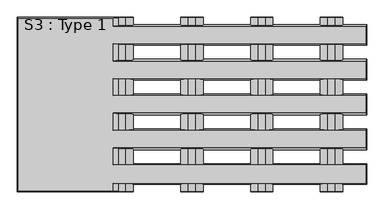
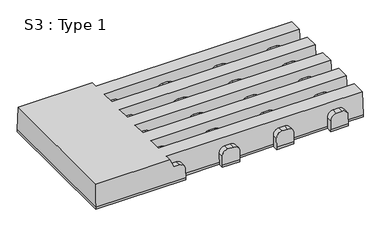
"""IFC4 building model written with IfcOpenShell, lengths in millimetres: proxy geometry, S3 : Type 1."""

from ifc_helpers import new_model, si_unit, frame, origin, place, context, project, spatial, ellipse_curve, source, transform, mapped, element, save
from ifc_brep_helpers import plane_surface, cylinder_surface, advanced_brep


def s3_type_1_7c8f1051(model_context):
    return source(origin(), model_context, "Body", "AdvancedBrep", [
        advanced_brep(
        [(0.0, 0.0, 0.0), (415.0, 0.0, 0.0), (415.0, 0.0, 10.0), (0.0, 0.0, 10.0), (415.0, 625.0, 0.0), (0.0, 625.0, 0.0), (0.0, 625.0, 10.0), (415.0, 625.0, 10.0), (415.0, 599.75, 0.0), (585.0, 599.75, 0.0), (585.0, 625.0, 0.0), (665.0, 625.0, 0.0), (665.0, 599.75, 0.0), (835.0, 599.75, 0.0), (835.0, 625.0, 0.0), (915.0, 625.0, 0.0), (915.0, 599.75, 0.0), (1085.0, 599.75, 0.0), (1085.0, 625.0, 0.0), (1165.0, 625.0, 0.0), (1165.0, 599.75, 0.0), (1250.0, 599.75, 0.0), (1250.0, 525.25, 0.0), (1165.0, 525.25, 0.0), (1165.0, 474.75, 0.0), (1250.0, 474.75, 0.0), (1250.0, 400.25, 0.0), (1165.0, 400.25, 0.0), (1165.0, 349.75, 0.0), (1250.0, 349.75, 0.0), (1250.0, 275.25, 0.0), (1165.0, 275.25, 0.0), (1165.0, 224.75, 0.0), (1250.0, 224.75, 0.0), (1250.0, 150.25, 0.0), (1165.0, 150.25, 0.0), (1165.0, 99.75, 0.0), (1250.0, 99.75, 0.0), (1250.0, 25.25, 0.0), (1165.0, 25.25, 0.0), (1165.0, 0.0, 0.0), (1085.0, 0.0, 0.0), (1085.0, 25.25, 0.0), (915.0, 25.25, 0.0), (915.0, 0.0, 0.0), (835.0, 0.0, 0.0), (835.0, 25.25, 0.0), (665.0, 25.25, 0.0), (665.0, 0.0, 0.0), (585.0, 0.0, 0.0), (585.0, 25.25, 0.0), (415.0, 25.25, 0.0), (665.0, 150.25, 0.0), (665.0, 99.75, 0.0), (835.0, 99.75, 0.0), (835.0, 150.25, 0.0), (665.0, 275.25, 0.0), (665.0, 224.75, 0.0), (835.0, 224.75, 0.0), (835.0, 275.25, 0.0), (665.0, 400.25, 0.0), (665.0, 349.75, 0.0), (835.0, 349.75, 0.0), (835.0, 400.25, 0.0), (665.0, 525.25, 0.0), (665.0, 474.75, 0.0), (835.0, 474.75, 0.0), (835.0, 525.25, 0.0), (915.0, 150.25, 0.0), (915.0, 99.75, 0.0), (1085.0, 99.75, 0.0), (1085.0, 150.25, 0.0), (915.0, 275.25, 0.0), (915.0, 224.75, 0.0), (1085.0, 224.75, 0.0), (1085.0, 275.25, 0.0), (915.0, 400.25, 0.0), (915.0, 349.75, 0.0), (1085.0, 349.75, 0.0), (1085.0, 400.25, 0.0), (915.0, 525.25, 0.0), (915.0, 474.75, 0.0), (1085.0, 474.75, 0.0), (1085.0, 525.25, 0.0), (415.0, 150.25, 0.0), (415.0, 99.75, 0.0), (585.0, 99.75, 0.0), (585.0, 150.25, 0.0), (415.0, 275.25, 0.0), (415.0, 224.75, 0.0), (585.0, 224.75, 0.0), (585.0, 275.25, 0.0), (415.0, 400.25, 0.0), (415.0, 349.75, 0.0), (585.0, 349.75, 0.0), (585.0, 400.25, 0.0), (415.0, 525.25, 0.0), (415.0, 474.75, 0.0), (585.0, 474.75, 0.0), (585.0, 525.25, 0.0), (1250.0, 99.75, 10.0), (1250.0, 25.25, 10.0), (1165.0, 99.75, 10.0), (665.0, 99.75, 10.0), (835.0, 99.75, 10.0), (915.0, 99.75, 10.0), (1085.0, 99.75, 10.0), (415.0, 99.75, 10.0), (585.0, 99.75, 10.0), (415.0, 97.8943952, 53.33), (388.33, 96.7522539, 80.0), (361.67, 96.7522539, 80.0), (343.8, 95.0392562, 120.0), (1247.0, 95.0392562, 120.0), (1165.0, 97.8943952, 53.33), (1138.33, 96.7522539, 80.0), (1111.67, 96.7522539, 80.0), (1085.0, 97.8943952, 53.33), (915.0, 97.8943952, 53.33), (888.33, 96.7522539, 80.0), (861.67, 96.7522539, 80.0), (835.0, 97.8943952, 53.33), (665.0, 97.8943952, 53.33), (638.33, 96.7522539, 80.0), (611.67, 96.7522539, 80.0), (585.0, 97.8943952, 53.33), (415.0, 27.1056048, 53.33), (415.0, 25.25, 10.0), (585.0, 25.25, 10.0), (585.0, 27.1056048, 53.33), (611.67, 28.2477461, 80.0), (638.33, 28.2477461, 80.0), (665.0, 27.1056048, 53.33), (665.0, 25.25, 10.0), (835.0, 25.25, 10.0), (835.0, 27.1056048, 53.33), (861.67, 28.2477461, 80.0), (888.33, 28.2477461, 80.0), (915.0, 27.1056048, 53.33), (915.0, 25.25, 10.0), (1085.0, 25.25, 10.0), (1085.0, 27.1056048, 53.33), (1111.67, 28.2477461, 80.0), (1138.33, 28.2477461, 80.0), (1165.0, 27.1056048, 53.33), (1165.0, 25.25, 10.0), (1247.0, 29.9607438, 120.0), (343.8, 29.9607438, 120.0), (361.67, 28.2477461, 80.0), (388.33, 28.2477461, 80.0), (1250.0, 224.75, 10.0), (1250.0, 150.25, 10.0), (1165.0, 224.75, 10.0), (665.0, 224.75, 10.0), (835.0, 224.75, 10.0), (915.0, 224.75, 10.0), (1085.0, 224.75, 10.0), (415.0, 224.75, 10.0), (585.0, 224.75, 10.0), (415.0, 222.3865455, 53.33), (388.33, 220.9318182, 80.0), (361.67, 220.9318182, 80.0), (343.8, 218.75, 120.0), (1247.0, 218.75, 120.0), (1165.0, 222.3865455, 53.33), (1138.33, 220.9318182, 80.0), (1111.67, 220.9318182, 80.0), (1085.0, 222.3865455, 53.33), (915.0, 222.3865455, 53.33), (888.33, 220.9318182, 80.0), (861.67, 220.9318182, 80.0), (835.0, 222.3865455, 53.33), (665.0, 222.3865455, 53.33), (638.33, 220.9318182, 80.0), (611.67, 220.9318182, 80.0), (585.0, 222.3865455, 53.33), (415.0, 152.6134545, 53.33), (415.0, 150.25, 10.0), (585.0, 150.25, 10.0), (585.0, 152.6134545, 53.33), (611.67, 154.0681818, 80.0), (638.33, 154.0681818, 80.0), (665.0, 152.6134545, 53.33), (665.0, 150.25, 10.0), (835.0, 150.25, 10.0), (835.0, 152.6134545, 53.33), (861.67, 154.0681818, 80.0), (888.33, 154.0681818, 80.0), (915.0, 152.6134545, 53.33), (915.0, 150.25, 10.0), (1085.0, 150.25, 10.0), (1085.0, 152.6134545, 53.33), (1111.67, 154.0681818, 80.0), (1138.33, 154.0681818, 80.0), (1165.0, 152.6134545, 53.33), (1165.0, 150.25, 10.0), (1247.0, 156.25, 120.0), (343.8, 156.25, 120.0), (361.67, 154.0681818, 80.0), (388.33, 154.0681818, 80.0), (1250.0, 349.75, 10.0), (1250.0, 275.25, 10.0), (1165.0, 349.75, 10.0), (665.0, 349.75, 10.0), (835.0, 349.75, 10.0), (915.0, 349.75, 10.0), (1085.0, 349.75, 10.0), (415.0, 349.75, 10.0), (585.0, 349.75, 10.0), (415.0, 347.3865455, 53.33), (388.33, 345.9318182, 80.0), (361.67, 345.9318182, 80.0), (343.8, 343.75, 120.0), (1247.0, 343.75, 120.0), (1165.0, 347.3865455, 53.33), (1138.33, 345.9318182, 80.0), (1111.67, 345.9318182, 80.0), (1085.0, 347.3865455, 53.33), (915.0, 347.3865455, 53.33), (888.33, 345.9318182, 80.0), (861.67, 345.9318182, 80.0), (835.0, 347.3865455, 53.33), (665.0, 347.3865455, 53.33), (638.33, 345.9318182, 80.0), (611.67, 345.9318182, 80.0), (585.0, 347.3865455, 53.33), (415.0, 277.6134545, 53.33), (415.0, 275.25, 10.0), (585.0, 275.25, 10.0), (585.0, 277.6134545, 53.33), (611.67, 279.0681818, 80.0), (638.33, 279.0681818, 80.0), (665.0, 277.6134545, 53.33), (665.0, 275.25, 10.0), (835.0, 275.25, 10.0), (835.0, 277.6134545, 53.33), (861.67, 279.0681818, 80.0), (888.33, 279.0681818, 80.0), (915.0, 277.6134545, 53.33), (915.0, 275.25, 10.0), (1085.0, 275.25, 10.0), (1085.0, 277.6134545, 53.33), (1111.67, 279.0681818, 80.0), (1138.33, 279.0681818, 80.0), (1165.0, 277.6134545, 53.33), (1165.0, 275.25, 10.0), (1247.0, 281.25, 120.0), (343.8, 281.25, 120.0), (361.67, 279.0681818, 80.0), (388.33, 279.0681818, 80.0), (1250.0, 474.75, 10.0), (1250.0, 400.25, 10.0), (1165.0, 474.75, 10.0), (665.0, 474.75, 10.0), (835.0, 474.75, 10.0), (915.0, 474.75, 10.0), (1085.0, 474.75, 10.0), (415.0, 474.75, 10.0), (585.0, 474.75, 10.0), (415.0, 472.3865455, 53.33), (388.33, 470.9318182, 80.0), (361.67, 470.9318182, 80.0), (343.8, 468.75, 120.0), (1247.0, 468.75, 120.0), (1165.0, 472.3865455, 53.33), (1138.33, 470.9318182, 80.0), (1111.67, 470.9318182, 80.0), (1085.0, 472.3865455, 53.33), (915.0, 472.3865455, 53.33), (888.33, 470.9318182, 80.0), (861.67, 470.9318182, 80.0), (835.0, 472.3865455, 53.33), (665.0, 472.3865455, 53.33), (638.33, 470.9318182, 80.0), (611.67, 470.9318182, 80.0), (585.0, 472.3865455, 53.33), (415.0, 402.6134545, 53.33), (415.0, 400.25, 10.0), (585.0, 400.25, 10.0), (585.0, 402.6134545, 53.33), (611.67, 404.0681818, 80.0), (638.33, 404.0681818, 80.0), (665.0, 402.6134545, 53.33), (665.0, 400.25, 10.0), (835.0, 400.25, 10.0), (835.0, 402.6134545, 53.33), (861.67, 404.0681818, 80.0), (888.33, 404.0681818, 80.0), (915.0, 402.6134545, 53.33), (915.0, 400.25, 10.0), (1085.0, 400.25, 10.0), (1085.0, 402.6134545, 53.33), (1111.67, 404.0681818, 80.0), (1138.33, 404.0681818, 80.0), (1165.0, 402.6134545, 53.33), (1165.0, 400.25, 10.0), (1247.0, 406.25, 120.0), (343.8, 406.25, 120.0), (361.67, 404.0681818, 80.0), (388.33, 404.0681818, 80.0), (1250.0, 599.75, 10.0), (1250.0, 525.25, 10.0), (1165.0, 599.75, 10.0), (665.0, 599.75, 10.0), (835.0, 599.75, 10.0), (915.0, 599.75, 10.0), (1085.0, 599.75, 10.0), (415.0, 599.75, 10.0), (585.0, 599.75, 10.0), (415.0, 597.4939752, 53.33), (388.33, 596.1053719, 80.0), (361.67, 596.1053719, 80.0), (343.8, 594.0227273, 120.0), (1247.0, 594.0227273, 120.0), (1165.0, 597.4939752, 53.33), (1138.33, 596.1053719, 80.0), (1111.67, 596.1053719, 80.0), (1085.0, 597.4939752, 53.33), (915.0, 597.4939752, 53.33), (888.33, 596.1053719, 80.0), (861.67, 596.1053719, 80.0), (835.0, 597.4939752, 53.33), (665.0, 597.4939752, 53.33), (638.33, 596.1053719, 80.0), (611.67, 596.1053719, 80.0), (585.0, 597.4939752, 53.33), (415.0, 527.5060248, 53.33), (415.0, 525.25, 10.0), (585.0, 525.25, 10.0), (585.0, 527.5060248, 53.33), (611.67, 528.8946281, 80.0), (638.33, 528.8946281, 80.0), (665.0, 527.5060248, 53.33), (665.0, 525.25, 10.0), (835.0, 525.25, 10.0), (835.0, 527.5060248, 53.33), (861.67, 528.8946281, 80.0), (888.33, 528.8946281, 80.0), (915.0, 527.5060248, 53.33), (915.0, 525.25, 10.0), (1085.0, 525.25, 10.0), (1085.0, 527.5060248, 53.33), (1111.67, 528.8946281, 80.0), (1138.33, 528.8946281, 80.0), (1165.0, 527.5060248, 53.33), (1165.0, 525.25, 10.0), (1247.0, 530.9772727, 120.0), (343.8, 530.9772727, 120.0), (361.67, 528.8946281, 80.0), (388.33, 528.8946281, 80.0), (665.0, 0.0, 10.0), (585.0, 0.0, 10.0), (585.0, 625.0, 10.0), (665.0, 625.0, 10.0), (915.0, 0.0, 10.0), (835.0, 0.0, 10.0), (835.0, 625.0, 10.0), (915.0, 625.0, 10.0), (1165.0, 0.0, 10.0), (1085.0, 0.0, 10.0), (1085.0, 625.0, 10.0), (1165.0, 625.0, 10.0), (665.0, 623.91675, 53.33), (665.0, 1.0811971, 53.33), (638.33, 1.7466836, 80.0), (638.33, 623.25, 80.0), (611.67, 1.7466836, 80.0), (611.67, 623.25, 80.0), (585.0, 1.0811971, 53.33), (585.0, 623.91675, 53.33), (915.0, 623.91675, 53.33), (915.0, 1.0811971, 53.33), (888.33, 1.7466836, 80.0), (888.33, 623.25, 80.0), (861.67, 1.7466836, 80.0), (861.67, 623.25, 80.0), (835.0, 1.0811971, 53.33), (835.0, 623.91675, 53.33), (1165.0, 623.91675, 53.33), (1165.0, 1.0811971, 53.33), (1138.33, 1.7466836, 80.0), (1138.33, 623.25, 80.0), (1111.67, 1.7466836, 80.0), (1111.67, 623.25, 80.0), (1085.0, 1.0811971, 53.33), (1085.0, 623.91675, 53.33), (415.0, 623.91675, 53.33), (415.0, 1.0811971, 53.33), (388.33, 1.7466836, 80.0), (388.33, 623.25, 80.0), (361.67, 1.7466836, 80.0), (361.67, 623.25, 80.0), (343.8, 2.7447885, 120.0), (343.8, 622.25, 120.0), (3.0, 622.25, 120.0), (3.0, 2.7447885, 120.0)],
        [
            (0, 1),
            (1, 2),
            (2, 3),
            (3, 0),
            (4, 5),
            (5, 6),
            (6, 7),
            (7, 4),
            (5, 0),
            (3, 6),
            (4, 8),
            (8, 9),
            (9, 10),
            (10, 11),
            (11, 12),
            (12, 13),
            (13, 14),
            (14, 15),
            (15, 16),
            (16, 17),
            (17, 18),
            (18, 19),
            (19, 20),
            (20, 21),
            (21, 22),
            (22, 23),
            (23, 24),
            (24, 25),
            (25, 26),
            (26, 27),
            (27, 28),
            (28, 29),
            (29, 30),
            (30, 31),
            (31, 32),
            (32, 33),
            (33, 34),
            (34, 35),
            (35, 36),
            (36, 37),
            (37, 38),
            (38, 39),
            (39, 40),
            (40, 41),
            (41, 42),
            (42, 43),
            (43, 44),
            (44, 45),
            (45, 46),
            (46, 47),
            (47, 48),
            (48, 49),
            (49, 50),
            (50, 51),
            (51, 1),
            (52, 53),
            (53, 54),
            (54, 55),
            (55, 52),
            (56, 57),
            (57, 58),
            (58, 59),
            (59, 56),
            (60, 61),
            (61, 62),
            (62, 63),
            (63, 60),
            (64, 65),
            (65, 66),
            (66, 67),
            (67, 64),
            (68, 69),
            (69, 70),
            (70, 71),
            (71, 68),
            (72, 73),
            (73, 74),
            (74, 75),
            (75, 72),
            (76, 77),
            (77, 78),
            (78, 79),
            (79, 76),
            (80, 81),
            (81, 82),
            (82, 83),
            (83, 80),
            (84, 85),
            (85, 86),
            (86, 87),
            (87, 84),
            (88, 89),
            (89, 90),
            (90, 91),
            (91, 88),
            (92, 93),
            (93, 94),
            (94, 95),
            (95, 92),
            (96, 97),
            (97, 98),
            (98, 99),
            (99, 96),
            (37, 100),
            (100, 101),
            (101, 38),
            (36, 102),
            (102, 100),
            (53, 103),
            (103, 104),
            (104, 54),
            (69, 105),
            (105, 106),
            (106, 70),
            (85, 107),
            (107, 108),
            (108, 86),
            (107, 109),
            (109, 110, ellipse_curve(frame((388.33, 97.8943952, 53.33), z_axis=(0.0, -0.9990842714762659, -0.042785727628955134), x_axis=(0.0, -0.04278572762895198, 0.999084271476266)), 26.6944449, 26.67)),
            (110, 111),
            (111, 112),
            (112, 113),
            (113, 100),
            (102, 114),
            (114, 115, ellipse_curve(frame((1138.33, 97.8943952, 53.33), z_axis=(0.0, -0.9990842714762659, -0.042785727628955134), x_axis=(0.0, -0.04278572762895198, 0.999084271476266)), 26.6944449, 26.67)),
            (115, 116),
            (116, 117, ellipse_curve(frame((1111.67, 97.8943952, 53.33), z_axis=(0.0, -0.9990842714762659, -0.042785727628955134), x_axis=(0.0, -0.04278572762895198, 0.999084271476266)), 26.6944449, 26.67)),
            (117, 106),
            (105, 118),
            (118, 119, ellipse_curve(frame((888.33, 97.8943952, 53.33), z_axis=(0.0, -0.9990842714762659, -0.042785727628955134), x_axis=(0.0, -0.04278572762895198, 0.999084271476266)), 26.6944449, 26.67)),
            (119, 120),
            (120, 121, ellipse_curve(frame((861.67, 97.8943952, 53.33), z_axis=(0.0, -0.9990842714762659, -0.042785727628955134), x_axis=(0.0, -0.04278572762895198, 0.999084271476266)), 26.6944449, 26.67)),
            (121, 104),
            (103, 122),
            (122, 123, ellipse_curve(frame((638.33, 97.8943952, 53.33), z_axis=(0.0, -0.9990842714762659, -0.042785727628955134), x_axis=(0.0, -0.04278572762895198, 0.999084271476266)), 26.6944449, 26.67)),
            (123, 124),
            (124, 125, ellipse_curve(frame((611.67, 97.8943952, 53.33), z_axis=(0.0, -0.9990842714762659, -0.042785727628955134), x_axis=(0.0, -0.04278572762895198, 0.999084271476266)), 26.6944449, 26.67)),
            (125, 108),
            (126, 127),
            (127, 128),
            (128, 129),
            (129, 130, ellipse_curve(frame((611.67, 27.1056048, 53.33), z_axis=(0.0, 0.9990842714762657, -0.042785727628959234), x_axis=(0.0, -0.042785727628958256, -0.9990842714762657)), 26.6944449, 26.67)),
            (130, 131),
            (131, 132, ellipse_curve(frame((638.33, 27.1056048, 53.33), z_axis=(0.0, 0.9990842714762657, -0.042785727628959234), x_axis=(0.0, -0.042785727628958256, -0.9990842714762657)), 26.6944449, 26.67)),
            (132, 133),
            (133, 134),
            (134, 135),
            (135, 136, ellipse_curve(frame((861.67, 27.1056048, 53.33), z_axis=(0.0, 0.9990842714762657, -0.042785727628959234), x_axis=(0.0, -0.042785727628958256, -0.9990842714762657)), 26.6944449, 26.67)),
            (136, 137),
            (137, 138, ellipse_curve(frame((888.33, 27.1056048, 53.33), z_axis=(0.0, 0.9990842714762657, -0.042785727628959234), x_axis=(0.0, -0.042785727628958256, -0.9990842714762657)), 26.6944449, 26.67)),
            (138, 139),
            (139, 140),
            (140, 141),
            (141, 142, ellipse_curve(frame((1111.67, 27.1056048, 53.33), z_axis=(0.0, 0.9990842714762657, -0.042785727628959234), x_axis=(0.0, -0.042785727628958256, -0.9990842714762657)), 26.6944449, 26.67)),
            (142, 143),
            (143, 144, ellipse_curve(frame((1138.33, 27.1056048, 53.33), z_axis=(0.0, 0.9990842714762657, -0.042785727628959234), x_axis=(0.0, -0.042785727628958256, -0.9990842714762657)), 26.6944449, 26.67)),
            (144, 145),
            (145, 101),
            (101, 146),
            (146, 147),
            (147, 148),
            (148, 149),
            (149, 126, ellipse_curve(frame((388.33, 27.1056048, 53.33), z_axis=(0.0, 0.9990842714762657, -0.042785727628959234), x_axis=(0.0, -0.042785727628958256, -0.9990842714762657)), 26.6944449, 26.67)),
            (145, 39),
            (133, 47),
            (46, 134),
            (139, 43),
            (42, 140),
            (127, 51),
            (50, 128),
            (33, 150),
            (150, 151),
            (151, 34),
            (32, 152),
            (152, 150),
            (57, 153),
            (153, 154),
            (154, 58),
            (73, 155),
            (155, 156),
            (156, 74),
            (89, 157),
            (157, 158),
            (158, 90),
            (157, 159),
            (159, 160, ellipse_curve(frame((388.33, 222.3865455, 53.33), z_axis=(0.0, -0.9985157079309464, -0.05446449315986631), x_axis=(0.0, -0.05446449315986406, 0.9985157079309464)), 26.7096449, 26.67)),
            (160, 161),
            (161, 162),
            (162, 163),
            (163, 150),
            (152, 164),
            (164, 165, ellipse_curve(frame((1138.33, 222.3865455, 53.33), z_axis=(0.0, -0.9985157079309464, -0.05446449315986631), x_axis=(0.0, -0.05446449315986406, 0.9985157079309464)), 26.7096449, 26.67)),
            (165, 166),
            (166, 167, ellipse_curve(frame((1111.67, 222.3865455, 53.33), z_axis=(0.0, -0.9985157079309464, -0.05446449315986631), x_axis=(0.0, -0.05446449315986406, 0.9985157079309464)), 26.7096449, 26.67)),
            (167, 156),
            (155, 168),
            (168, 169, ellipse_curve(frame((888.33, 222.3865455, 53.33), z_axis=(0.0, -0.9985157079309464, -0.05446449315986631), x_axis=(0.0, -0.05446449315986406, 0.9985157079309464)), 26.7096449, 26.67)),
            (169, 170),
            (170, 171, ellipse_curve(frame((861.67, 222.3865455, 53.33), z_axis=(0.0, -0.9985157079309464, -0.05446449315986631), x_axis=(0.0, -0.05446449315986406, 0.9985157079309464)), 26.7096449, 26.67)),
            (171, 154),
            (153, 172),
            (172, 173, ellipse_curve(frame((638.33, 222.3865455, 53.33), z_axis=(0.0, -0.9985157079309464, -0.05446449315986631), x_axis=(0.0, -0.05446449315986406, 0.9985157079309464)), 26.7096449, 26.67)),
            (173, 174),
            (174, 175, ellipse_curve(frame((611.67, 222.3865455, 53.33), z_axis=(0.0, -0.9985157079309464, -0.05446449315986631), x_axis=(0.0, -0.05446449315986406, 0.9985157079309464)), 26.7096449, 26.67)),
            (175, 158),
            (176, 177),
            (177, 178),
            (178, 179),
            (179, 180, ellipse_curve(frame((611.67, 152.6134545, 53.33), z_axis=(0.0, 0.998515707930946, -0.05446449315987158), x_axis=(0.0, -0.05446449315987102, -0.9985157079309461)), 26.7096449, 26.67)),
            (180, 181),
            (181, 182, ellipse_curve(frame((638.33, 152.6134545, 53.33), z_axis=(0.0, 0.998515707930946, -0.05446449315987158), x_axis=(0.0, -0.05446449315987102, -0.9985157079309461)), 26.7096449, 26.67)),
            (182, 183),
            (183, 184),
            (184, 185),
            (185, 186, ellipse_curve(frame((861.67, 152.6134545, 53.33), z_axis=(0.0, 0.998515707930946, -0.05446449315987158), x_axis=(0.0, -0.05446449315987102, -0.9985157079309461)), 26.7096449, 26.67)),
            (186, 187),
            (187, 188, ellipse_curve(frame((888.33, 152.6134545, 53.33), z_axis=(0.0, 0.998515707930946, -0.05446449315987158), x_axis=(0.0, -0.05446449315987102, -0.9985157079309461)), 26.7096449, 26.67)),
            (188, 189),
            (189, 190),
            (190, 191),
            (191, 192, ellipse_curve(frame((1111.67, 152.6134545, 53.33), z_axis=(0.0, 0.998515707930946, -0.05446449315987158), x_axis=(0.0, -0.05446449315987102, -0.9985157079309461)), 26.7096449, 26.67)),
            (192, 193),
            (193, 194, ellipse_curve(frame((1138.33, 152.6134545, 53.33), z_axis=(0.0, 0.998515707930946, -0.05446449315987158), x_axis=(0.0, -0.05446449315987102, -0.9985157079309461)), 26.7096449, 26.67)),
            (194, 195),
            (195, 151),
            (151, 196),
            (196, 197),
            (197, 198),
            (198, 199),
            (199, 176, ellipse_curve(frame((388.33, 152.6134545, 53.33), z_axis=(0.0, 0.998515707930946, -0.05446449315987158), x_axis=(0.0, -0.05446449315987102, -0.9985157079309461)), 26.7096449, 26.67)),
            (195, 35),
            (183, 52),
            (55, 184),
            (189, 68),
            (71, 190),
            (177, 84),
            (87, 178),
            (29, 200),
            (200, 201),
            (201, 30),
            (28, 202),
            (202, 200),
            (61, 203),
            (203, 204),
            (204, 62),
            (77, 205),
            (205, 206),
            (206, 78),
            (93, 207),
            (207, 208),
            (208, 94),
            (207, 209),
            (209, 210, ellipse_curve(frame((388.33, 347.3865455, 53.33), z_axis=(0.0, -0.9985157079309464, -0.05446449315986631), x_axis=(0.0, -0.05446449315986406, 0.9985157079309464)), 26.7096449, 26.67)),
            (210, 211),
            (211, 212),
            (212, 213),
            (213, 200),
            (202, 214),
            (214, 215, ellipse_curve(frame((1138.33, 347.3865455, 53.33), z_axis=(0.0, -0.9985157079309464, -0.05446449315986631), x_axis=(0.0, -0.05446449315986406, 0.9985157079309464)), 26.7096449, 26.67)),
            (215, 216),
            (216, 217, ellipse_curve(frame((1111.67, 347.3865455, 53.33), z_axis=(0.0, -0.9985157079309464, -0.05446449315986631), x_axis=(0.0, -0.05446449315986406, 0.9985157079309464)), 26.7096449, 26.67)),
            (217, 206),
            (205, 218),
            (218, 219, ellipse_curve(frame((888.33, 347.3865455, 53.33), z_axis=(0.0, -0.9985157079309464, -0.05446449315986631), x_axis=(0.0, -0.05446449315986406, 0.9985157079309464)), 26.7096449, 26.67)),
            (219, 220),
            (220, 221, ellipse_curve(frame((861.67, 347.3865455, 53.33), z_axis=(0.0, -0.9985157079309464, -0.05446449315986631), x_axis=(0.0, -0.05446449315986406, 0.9985157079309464)), 26.7096449, 26.67)),
            (221, 204),
            (203, 222),
            (222, 223, ellipse_curve(frame((638.33, 347.3865455, 53.33), z_axis=(0.0, -0.9985157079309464, -0.05446449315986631), x_axis=(0.0, -0.05446449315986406, 0.9985157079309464)), 26.7096449, 26.67)),
            (223, 224),
            (224, 225, ellipse_curve(frame((611.67, 347.3865455, 53.33), z_axis=(0.0, -0.9985157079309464, -0.05446449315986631), x_axis=(0.0, -0.05446449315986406, 0.9985157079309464)), 26.7096449, 26.67)),
            (225, 208),
            (226, 227),
            (227, 228),
            (228, 229),
            (229, 230, ellipse_curve(frame((611.67, 277.6134545, 53.33), z_axis=(0.0, 0.998515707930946, -0.05446449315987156), x_axis=(0.0, -0.054464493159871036, -0.998515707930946)), 26.7096449, 26.67)),
            (230, 231),
            (231, 232, ellipse_curve(frame((638.33, 277.6134545, 53.33), z_axis=(0.0, 0.998515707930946, -0.05446449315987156), x_axis=(0.0, -0.054464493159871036, -0.998515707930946)), 26.7096449, 26.67)),
            (232, 233),
            (233, 234),
            (234, 235),
            (235, 236, ellipse_curve(frame((861.67, 277.6134545, 53.33), z_axis=(0.0, 0.998515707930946, -0.05446449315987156), x_axis=(0.0, -0.054464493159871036, -0.998515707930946)), 26.7096449, 26.67)),
            (236, 237),
            (237, 238, ellipse_curve(frame((888.33, 277.6134545, 53.33), z_axis=(0.0, 0.998515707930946, -0.05446449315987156), x_axis=(0.0, -0.054464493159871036, -0.998515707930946)), 26.7096449, 26.67)),
            (238, 239),
            (239, 240),
            (240, 241),
            (241, 242, ellipse_curve(frame((1111.67, 277.6134545, 53.33), z_axis=(0.0, 0.998515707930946, -0.05446449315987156), x_axis=(0.0, -0.054464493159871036, -0.998515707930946)), 26.7096449, 26.67)),
            (242, 243),
            (243, 244, ellipse_curve(frame((1138.33, 277.6134545, 53.33), z_axis=(0.0, 0.998515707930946, -0.05446449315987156), x_axis=(0.0, -0.054464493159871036, -0.998515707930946)), 26.7096449, 26.67)),
            (244, 245),
            (245, 201),
            (201, 246),
            (246, 247),
            (247, 248),
            (248, 249),
            (249, 226, ellipse_curve(frame((388.33, 277.6134545, 53.33), z_axis=(0.0, 0.998515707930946, -0.05446449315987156), x_axis=(0.0, -0.054464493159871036, -0.998515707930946)), 26.7096449, 26.67)),
            (245, 31),
            (233, 56),
            (59, 234),
            (239, 72),
            (75, 240),
            (227, 88),
            (91, 228),
            (25, 250),
            (250, 251),
            (251, 26),
            (24, 252),
            (252, 250),
            (65, 253),
            (253, 254),
            (254, 66),
            (81, 255),
            (255, 256),
            (256, 82),
            (97, 257),
            (257, 258),
            (258, 98),
            (257, 259),
            (259, 260, ellipse_curve(frame((388.33, 472.3865455, 53.33), z_axis=(0.0, -0.9985157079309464, -0.05446449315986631), x_axis=(0.0, -0.05446449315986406, 0.9985157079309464)), 26.7096449, 26.67)),
            (260, 261),
            (261, 262),
            (262, 263),
            (263, 250),
            (252, 264),
            (264, 265, ellipse_curve(frame((1138.33, 472.3865455, 53.33), z_axis=(0.0, -0.9985157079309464, -0.05446449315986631), x_axis=(0.0, -0.05446449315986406, 0.9985157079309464)), 26.7096449, 26.67)),
            (265, 266),
            (266, 267, ellipse_curve(frame((1111.67, 472.3865455, 53.33), z_axis=(0.0, -0.9985157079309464, -0.05446449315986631), x_axis=(0.0, -0.05446449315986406, 0.9985157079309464)), 26.7096449, 26.67)),
            (267, 256),
            (255, 268),
            (268, 269, ellipse_curve(frame((888.33, 472.3865455, 53.33), z_axis=(0.0, -0.9985157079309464, -0.05446449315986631), x_axis=(0.0, -0.05446449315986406, 0.9985157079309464)), 26.7096449, 26.67)),
            (269, 270),
            (270, 271, ellipse_curve(frame((861.67, 472.3865455, 53.33), z_axis=(0.0, -0.9985157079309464, -0.05446449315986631), x_axis=(0.0, -0.05446449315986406, 0.9985157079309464)), 26.7096449, 26.67)),
            (271, 254),
            (253, 272),
            (272, 273, ellipse_curve(frame((638.33, 472.3865455, 53.33), z_axis=(0.0, -0.9985157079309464, -0.05446449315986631), x_axis=(0.0, -0.05446449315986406, 0.9985157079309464)), 26.7096449, 26.67)),
            (273, 274),
            (274, 275, ellipse_curve(frame((611.67, 472.3865455, 53.33), z_axis=(0.0, -0.9985157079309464, -0.05446449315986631), x_axis=(0.0, -0.05446449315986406, 0.9985157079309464)), 26.7096449, 26.67)),
            (275, 258),
            (276, 277),
            (277, 278),
            (278, 279),
            (279, 280, ellipse_curve(frame((611.67, 402.6134545, 53.33), z_axis=(0.0, 0.998515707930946, -0.05446449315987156), x_axis=(0.0, -0.054464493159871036, -0.998515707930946)), 26.7096449, 26.67)),
            (280, 281),
            (281, 282, ellipse_curve(frame((638.33, 402.6134545, 53.33), z_axis=(0.0, 0.998515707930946, -0.05446449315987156), x_axis=(0.0, -0.054464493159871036, -0.998515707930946)), 26.7096449, 26.67)),
            (282, 283),
            (283, 284),
            (284, 285),
            (285, 286, ellipse_curve(frame((861.67, 402.6134545, 53.33), z_axis=(0.0, 0.998515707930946, -0.05446449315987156), x_axis=(0.0, -0.054464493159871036, -0.998515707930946)), 26.7096449, 26.67)),
            (286, 287),
            (287, 288, ellipse_curve(frame((888.33, 402.6134545, 53.33), z_axis=(0.0, 0.998515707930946, -0.05446449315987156), x_axis=(0.0, -0.054464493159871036, -0.998515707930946)), 26.7096449, 26.67)),
            (288, 289),
            (289, 290),
            (290, 291),
            (291, 292, ellipse_curve(frame((1111.67, 402.6134545, 53.33), z_axis=(0.0, 0.998515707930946, -0.05446449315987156), x_axis=(0.0, -0.054464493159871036, -0.998515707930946)), 26.7096449, 26.67)),
            (292, 293),
            (293, 294, ellipse_curve(frame((1138.33, 402.6134545, 53.33), z_axis=(0.0, 0.998515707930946, -0.05446449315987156), x_axis=(0.0, -0.054464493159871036, -0.998515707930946)), 26.7096449, 26.67)),
            (294, 295),
            (295, 251),
            (251, 296),
            (296, 297),
            (297, 298),
            (298, 299),
            (299, 276, ellipse_curve(frame((388.33, 402.6134545, 53.33), z_axis=(0.0, 0.998515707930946, -0.05446449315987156), x_axis=(0.0, -0.054464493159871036, -0.998515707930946)), 26.7096449, 26.67)),
            (295, 27),
            (283, 60),
            (63, 284),
            (289, 76),
            (79, 290),
            (277, 92),
            (95, 278),
            (21, 300),
            (300, 301),
            (301, 22),
            (20, 302),
            (302, 300),
            (12, 303),
            (303, 304),
            (304, 13),
            (16, 305),
            (305, 306),
            (306, 17),
            (8, 307),
            (307, 308),
            (308, 9),
            (307, 309),
            (309, 310, ellipse_curve(frame((388.33, 597.4939752, 53.33), z_axis=(0.0, -0.9986473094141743, -0.05199568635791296), x_axis=(0.0, -0.051995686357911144, 0.9986473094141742)), 26.7061251, 26.67)),
            (310, 311),
            (311, 312),
            (312, 313),
            (313, 300),
            (302, 314),
            (314, 315, ellipse_curve(frame((1138.33, 597.4939752, 53.33), z_axis=(0.0, -0.9986473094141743, -0.05199568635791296), x_axis=(0.0, -0.051995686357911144, 0.9986473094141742)), 26.7061251, 26.67)),
            (315, 316),
            (316, 317, ellipse_curve(frame((1111.67, 597.4939752, 53.33), z_axis=(0.0, -0.9986473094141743, -0.05199568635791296), x_axis=(0.0, -0.051995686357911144, 0.9986473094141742)), 26.7061251, 26.67)),
            (317, 306),
            (305, 318),
            (318, 319, ellipse_curve(frame((888.33, 597.4939752, 53.33), z_axis=(0.0, -0.9986473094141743, -0.05199568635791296), x_axis=(0.0, -0.051995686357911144, 0.9986473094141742)), 26.7061251, 26.67)),
            (319, 320),
            (320, 321, ellipse_curve(frame((861.67, 597.4939752, 53.33), z_axis=(0.0, -0.9986473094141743, -0.05199568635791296), x_axis=(0.0, -0.051995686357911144, 0.9986473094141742)), 26.7061251, 26.67)),
            (321, 304),
            (303, 322),
            (322, 323, ellipse_curve(frame((638.33, 597.4939752, 53.33), z_axis=(0.0, -0.9986473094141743, -0.05199568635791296), x_axis=(0.0, -0.051995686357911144, 0.9986473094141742)), 26.7061251, 26.67)),
            (323, 324),
            (324, 325, ellipse_curve(frame((611.67, 597.4939752, 53.33), z_axis=(0.0, -0.9986473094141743, -0.05199568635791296), x_axis=(0.0, -0.051995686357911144, 0.9986473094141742)), 26.7061251, 26.67)),
            (325, 308),
            (326, 327),
            (327, 328),
            (328, 329),
            (329, 330, ellipse_curve(frame((611.67, 527.5060248, 53.33), z_axis=(0.0, 0.9986473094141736, -0.051995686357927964), x_axis=(0.0, -0.051995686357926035, -0.9986473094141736)), 26.7061251, 26.67)),
            (330, 331),
            (331, 332, ellipse_curve(frame((638.33, 527.5060248, 53.33), z_axis=(0.0, 0.9986473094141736, -0.051995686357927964), x_axis=(0.0, -0.051995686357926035, -0.9986473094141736)), 26.7061251, 26.67)),
            (332, 333),
            (333, 334),
            (334, 335),
            (335, 336, ellipse_curve(frame((861.67, 527.5060248, 53.33), z_axis=(0.0, 0.9986473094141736, -0.051995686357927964), x_axis=(0.0, -0.051995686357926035, -0.9986473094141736)), 26.7061251, 26.67)),
            (336, 337),
            (337, 338, ellipse_curve(frame((888.33, 527.5060248, 53.33), z_axis=(0.0, 0.9986473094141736, -0.051995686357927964), x_axis=(0.0, -0.051995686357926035, -0.9986473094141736)), 26.7061251, 26.67)),
            (338, 339),
            (339, 340),
            (340, 341),
            (341, 342, ellipse_curve(frame((1111.67, 527.5060248, 53.33), z_axis=(0.0, 0.9986473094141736, -0.051995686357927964), x_axis=(0.0, -0.051995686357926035, -0.9986473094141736)), 26.7061251, 26.67)),
            (342, 343),
            (343, 344, ellipse_curve(frame((1138.33, 527.5060248, 53.33), z_axis=(0.0, 0.9986473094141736, -0.051995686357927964), x_axis=(0.0, -0.051995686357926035, -0.9986473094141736)), 26.7061251, 26.67)),
            (344, 345),
            (345, 301),
            (301, 346),
            (346, 347),
            (347, 348),
            (348, 349),
            (349, 326, ellipse_curve(frame((388.33, 527.5060248, 53.33), z_axis=(0.0, 0.9986473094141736, -0.051995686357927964), x_axis=(0.0, -0.051995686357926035, -0.9986473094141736)), 26.7061251, 26.67)),
            (345, 23),
            (333, 64),
            (67, 334),
            (339, 80),
            (83, 340),
            (327, 96),
            (99, 328),
            (48, 350),
            (350, 351),
            (351, 49),
            (10, 352),
            (352, 353),
            (353, 11),
            (44, 354),
            (354, 355),
            (355, 45),
            (14, 356),
            (356, 357),
            (357, 15),
            (40, 358),
            (358, 359),
            (359, 41),
            (18, 360),
            (360, 361),
            (361, 19),
            (353, 362),
            (362, 322),
            (132, 363),
            (363, 350),
            (182, 122),
            (232, 172),
            (282, 222),
            (332, 272),
            (131, 364),
            (364, 363, ellipse_curve(frame((638.33, 1.0811971, 53.33), z_axis=(0.0, 0.9996888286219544, -0.024944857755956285), x_axis=(0.0, -0.024944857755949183, -0.9996888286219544)), 26.6783015, 26.67)),
            (362, 365, ellipse_curve(frame((638.33, 623.91675, 53.33), z_axis=(0.0, -0.9996876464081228, -0.024992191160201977), x_axis=(0.0, -0.02499219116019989, 0.9996876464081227)), 26.6783331, 26.67)),
            (365, 323),
            (181, 123),
            (231, 173),
            (281, 223),
            (331, 273),
            (130, 366),
            (366, 364),
            (365, 367),
            (367, 324),
            (180, 124),
            (230, 174),
            (280, 224),
            (330, 274),
            (129, 368),
            (368, 366, ellipse_curve(frame((611.67, 1.0811971, 53.33), z_axis=(0.0, 0.9996888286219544, -0.024944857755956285), x_axis=(0.0, -0.024944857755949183, -0.9996888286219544)), 26.6783015, 26.67)),
            (367, 369, ellipse_curve(frame((611.67, 623.91675, 53.33), z_axis=(0.0, -0.9996876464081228, -0.024992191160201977), x_axis=(0.0, -0.02499219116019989, 0.9996876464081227)), 26.6783331, 26.67)),
            (369, 325),
            (179, 125),
            (229, 175),
            (279, 225),
            (329, 275),
            (369, 352),
            (351, 368),
            (357, 370),
            (370, 318),
            (138, 371),
            (371, 354),
            (188, 118),
            (238, 168),
            (288, 218),
            (338, 268),
            (137, 372),
            (372, 371, ellipse_curve(frame((888.33, 1.0811971, 53.33), z_axis=(0.0, 0.9996888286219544, -0.024944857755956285), x_axis=(0.0, -0.024944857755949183, -0.9996888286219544)), 26.6783015, 26.67)),
            (370, 373, ellipse_curve(frame((888.33, 623.91675, 53.33), z_axis=(0.0, -0.9996876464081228, -0.024992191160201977), x_axis=(0.0, -0.02499219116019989, 0.9996876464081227)), 26.6783331, 26.67)),
            (373, 319),
            (187, 119),
            (237, 169),
            (287, 219),
            (337, 269),
            (136, 374),
            (374, 372),
            (373, 375),
            (375, 320),
            (186, 120),
            (236, 170),
            (286, 220),
            (336, 270),
            (135, 376),
            (376, 374, ellipse_curve(frame((861.67, 1.0811971, 53.33), z_axis=(0.0, 0.9996888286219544, -0.024944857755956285), x_axis=(0.0, -0.024944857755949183, -0.9996888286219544)), 26.6783015, 26.67)),
            (375, 377, ellipse_curve(frame((861.67, 623.91675, 53.33), z_axis=(0.0, -0.9996876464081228, -0.024992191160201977), x_axis=(0.0, -0.02499219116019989, 0.9996876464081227)), 26.6783331, 26.67)),
            (377, 321),
            (185, 121),
            (235, 171),
            (285, 221),
            (335, 271),
            (377, 356),
            (355, 376),
            (361, 378),
            (378, 314),
            (344, 264),
            (294, 214),
            (244, 164),
            (194, 114),
            (144, 379),
            (379, 358),
            (143, 380),
            (380, 379, ellipse_curve(frame((1138.33, 1.0811971, 53.33), z_axis=(0.0, 0.9996888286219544, -0.024944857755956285), x_axis=(0.0, -0.024944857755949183, -0.9996888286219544)), 26.6783015, 26.67)),
            (378, 381, ellipse_curve(frame((1138.33, 623.91675, 53.33), z_axis=(0.0, -0.9996876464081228, -0.024992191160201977), x_axis=(0.0, -0.02499219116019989, 0.9996876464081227)), 26.6783331, 26.67)),
            (381, 315),
            (193, 115),
            (243, 165),
            (293, 215),
            (343, 265),
            (142, 382),
            (382, 380),
            (381, 383),
            (383, 316),
            (192, 116),
            (242, 166),
            (292, 216),
            (342, 266),
            (141, 384),
            (384, 382, ellipse_curve(frame((1111.67, 1.0811971, 53.33), z_axis=(0.0, 0.9996888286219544, -0.024944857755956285), x_axis=(0.0, -0.024944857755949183, -0.9996888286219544)), 26.6783015, 26.67)),
            (383, 385, ellipse_curve(frame((1111.67, 623.91675, 53.33), z_axis=(0.0, -0.9996876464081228, -0.024992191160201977), x_axis=(0.0, -0.02499219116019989, 0.9996876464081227)), 26.6783331, 26.67)),
            (385, 317),
            (191, 117),
            (241, 167),
            (291, 217),
            (341, 267),
            (385, 360),
            (359, 384),
            (7, 386),
            (386, 309),
            (126, 387),
            (387, 2),
            (176, 109),
            (226, 159),
            (276, 209),
            (326, 259),
            (199, 110),
            (149, 388),
            (388, 387, ellipse_curve(frame((388.33, 1.0811971, 53.33), z_axis=(0.0, 0.9996888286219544, -0.024944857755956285), x_axis=(0.0, -0.024944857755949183, -0.9996888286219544)), 26.6783015, 26.67)),
            (249, 160),
            (299, 210),
            (349, 260),
            (386, 389, ellipse_curve(frame((388.33, 623.91675, 53.33), z_axis=(0.0, -0.9996876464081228, -0.024992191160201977), x_axis=(0.0, -0.02499219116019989, 0.9996876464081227)), 26.6783331, 26.67)),
            (389, 310),
            (198, 111),
            (148, 390),
            (390, 388),
            (248, 161),
            (298, 211),
            (348, 261),
            (389, 391),
            (391, 311),
            (197, 112),
            (147, 392),
            (392, 390),
            (247, 162),
            (297, 212),
            (347, 262),
            (391, 393),
            (393, 312),
            (196, 163),
            (246, 213),
            (296, 263),
            (346, 313),
            (393, 394),
            (394, 395),
            (395, 392),
            (146, 113),
            (6, 394),
            (395, 3),
        ],
        [
            plane_surface(frame((415.0, 0.0, 0.0), z_axis=(0.0, -1.0, 0.0), x_axis=(0.0, 0.0, 1.0))),
            plane_surface(frame((415.0, 625.0, 0.0), z_axis=(0.0, 1.0, 0.0), x_axis=(0.0, 0.0, -1.0))),
            plane_surface(frame((0.0, 0.0, 120.0), z_axis=(-1.0, 0.0, 0.0), x_axis=(0.0, 1.0, 0.0))),
            plane_surface(frame((0.0, 0.0, 0.0), z_axis=(0.0, 0.0, -1.0), x_axis=(0.0, 1.0, 0.0))),
            plane_surface(frame((1250.0, 99.75, 0.0), z_axis=(1.0, 0.0, 0.0), x_axis=(0.0, 0.0, 1.0))),
            plane_surface(frame((1250.0, 99.75, 0.0), z_axis=(0.0, 1.0, 0.0), x_axis=(-1.0, 0.0, 0.0))),
            plane_surface(frame((1250.0, 99.75, 10.0), z_axis=(0.0, 0.9990842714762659, 0.042785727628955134), x_axis=(-1.0, 0.0, 0.0))),
            plane_surface(frame((1250.0, 29.9607438, 120.0), z_axis=(0.0, -0.9990842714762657, 0.042785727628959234), x_axis=(-1.0, 0.0, 0.0))),
            plane_surface(frame((1250.0, 25.25, 10.0), z_axis=(0.0, -1.0, 0.0), x_axis=(-1.0, 0.0, 0.0))),
            plane_surface(frame((1250.0, 224.75, 0.0), z_axis=(1.0, 0.0, 0.0), x_axis=(0.0, 0.0, 1.0))),
            plane_surface(frame((1250.0, 224.75, 0.0), z_axis=(0.0, 1.0, 0.0), x_axis=(-1.0, 0.0, 0.0))),
            plane_surface(frame((1250.0, 224.75, 10.0), z_axis=(0.0, 0.9985157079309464, 0.05446449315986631), x_axis=(-1.0, 0.0, 0.0))),
            plane_surface(frame((1250.0, 156.25, 120.0), z_axis=(0.0, -0.998515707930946, 0.05446449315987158), x_axis=(-1.0, 0.0, 0.0))),
            plane_surface(frame((1250.0, 150.25, 10.0), z_axis=(0.0, -1.0, 0.0), x_axis=(-1.0, 0.0, 0.0))),
            plane_surface(frame((1250.0, 349.75, 0.0), z_axis=(1.0, 0.0, 0.0), x_axis=(0.0, 0.0, 1.0))),
            plane_surface(frame((1250.0, 349.75, 0.0), z_axis=(0.0, 1.0, 0.0), x_axis=(-1.0, 0.0, 0.0))),
            plane_surface(frame((1250.0, 349.75, 10.0), z_axis=(0.0, 0.9985157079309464, 0.05446449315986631), x_axis=(-1.0, 0.0, 0.0))),
            plane_surface(frame((1250.0, 281.25, 120.0), z_axis=(0.0, -0.998515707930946, 0.05446449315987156), x_axis=(-1.0, 0.0, 0.0))),
            plane_surface(frame((1250.0, 275.25, 10.0), z_axis=(0.0, -1.0, 0.0), x_axis=(-1.0, 0.0, 0.0))),
            plane_surface(frame((1250.0, 474.75, 0.0), z_axis=(1.0, 0.0, 0.0), x_axis=(0.0, 0.0, 1.0))),
            plane_surface(frame((1250.0, 474.75, 0.0), z_axis=(0.0, 1.0, 0.0), x_axis=(-1.0, 0.0, 0.0))),
            plane_surface(frame((1250.0, 474.75, 10.0), z_axis=(0.0, 0.9985157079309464, 0.05446449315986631), x_axis=(-1.0, 0.0, 0.0))),
            plane_surface(frame((1250.0, 406.25, 120.0), z_axis=(0.0, -0.998515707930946, 0.05446449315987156), x_axis=(-1.0, 0.0, 0.0))),
            plane_surface(frame((1250.0, 400.25, 10.0), z_axis=(0.0, -1.0, 0.0), x_axis=(-1.0, 0.0, 0.0))),
            plane_surface(frame((1250.0, 599.75, 0.0), z_axis=(1.0, 0.0, 0.0), x_axis=(0.0, 0.0, 1.0))),
            plane_surface(frame((1250.0, 599.75, 0.0), z_axis=(0.0, 1.0, 0.0), x_axis=(-1.0, 0.0, 0.0))),
            plane_surface(frame((1250.0, 599.75, 10.0), z_axis=(0.0, 0.9986473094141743, 0.05199568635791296), x_axis=(-1.0, 0.0, 0.0))),
            plane_surface(frame((1250.0, 530.9772727, 120.0), z_axis=(0.0, -0.9986473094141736, 0.051995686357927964), x_axis=(-1.0, 0.0, 0.0))),
            plane_surface(frame((1250.0, 525.25, 10.0), z_axis=(0.0, -1.0, 0.0), x_axis=(-1.0, 0.0, 0.0))),
            plane_surface(frame((665.0, 0.0, 0.0), z_axis=(0.0, -1.0, 0.0), x_axis=(0.0, 0.0, 1.0))),
            plane_surface(frame((665.0, 625.0, 0.0), z_axis=(0.0, 1.0, 0.0), x_axis=(0.0, 0.0, -1.0))),
            plane_surface(frame((915.0, 0.0, 0.0), z_axis=(0.0, -1.0, 0.0), x_axis=(0.0, 0.0, 1.0))),
            plane_surface(frame((915.0, 625.0, 0.0), z_axis=(0.0, 1.0, 0.0), x_axis=(0.0, 0.0, -1.0))),
            plane_surface(frame((1165.0, 0.0, 0.0), z_axis=(0.0, -1.0, 0.0), x_axis=(0.0, 0.0, 1.0))),
            plane_surface(frame((1165.0, 625.0, 0.0), z_axis=(0.0, 1.0, 0.0), x_axis=(0.0, 0.0, -1.0))),
            plane_surface(frame((665.0, 0.0, 0.0), z_axis=(1.0, 0.0, 0.0), x_axis=(0.0, 1.0, 0.0))),
            cylinder_surface(frame((638.33, 625.0, 53.33), z_axis=(0.0, -1.0, 0.0), x_axis=(1.0, 0.0, 0.0)), 26.67),
            plane_surface(frame((638.33, 0.0, 80.0), z_axis=(0.0, 0.0, 1.0), x_axis=(0.0, 1.0, 0.0))),
            cylinder_surface(frame((611.67, 625.0, 53.33), z_axis=(0.0, -1.0, 0.0), x_axis=(1.0, 0.0, 0.0)), 26.67),
            plane_surface(frame((585.0, 0.0, 53.33), z_axis=(-1.0, 0.0, 0.0), x_axis=(0.0, 1.0, 0.0))),
            plane_surface(frame((915.0, 0.0, 0.0), z_axis=(1.0, 0.0, 0.0), x_axis=(0.0, 1.0, 0.0))),
            cylinder_surface(frame((888.33, 625.0, 53.33), z_axis=(0.0, -1.0, 0.0), x_axis=(1.0, 0.0, 0.0)), 26.67),
            plane_surface(frame((888.33, 0.0, 80.0), z_axis=(0.0, 0.0, 1.0), x_axis=(0.0, 1.0, 0.0))),
            cylinder_surface(frame((861.67, 625.0, 53.33), z_axis=(0.0, -1.0, 0.0), x_axis=(1.0, 0.0, 0.0)), 26.67),
            plane_surface(frame((835.0, 0.0, 53.33), z_axis=(-1.0, 0.0, 0.0), x_axis=(0.0, 1.0, 0.0))),
            plane_surface(frame((1165.0, 0.0, 0.0), z_axis=(1.0, 0.0, 0.0), x_axis=(0.0, 1.0, 0.0))),
            cylinder_surface(frame((1138.33, 625.0, 53.33), z_axis=(0.0, -1.0, 0.0), x_axis=(1.0, 0.0, 0.0)), 26.67),
            plane_surface(frame((1138.33, 0.0, 80.0), z_axis=(0.0, 0.0, 1.0), x_axis=(0.0, 1.0, 0.0))),
            cylinder_surface(frame((1111.67, 625.0, 53.33), z_axis=(0.0, -1.0, 0.0), x_axis=(1.0, 0.0, 0.0)), 26.67),
            plane_surface(frame((1085.0, 0.0, 53.33), z_axis=(-1.0, 0.0, 0.0), x_axis=(0.0, 1.0, 0.0))),
            plane_surface(frame((415.0, 0.0, 0.0), z_axis=(1.0, 0.0, 0.0), x_axis=(0.0, 1.0, 0.0))),
            cylinder_surface(frame((388.33, 625.0, 53.33), z_axis=(0.0, -1.0, 0.0), x_axis=(1.0, 0.0, 0.0)), 26.67),
            plane_surface(frame((388.33, 0.0, 80.0), z_axis=(0.0, 0.0, 1.0), x_axis=(0.0, 1.0, 0.0))),
            plane_surface(frame((361.67, 0.0, 80.0), z_axis=(0.9130286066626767, 0.0, 0.4078955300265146), x_axis=(0.0, 1.0, 0.0))),
            plane_surface(frame((343.8, 0.0, 120.0), z_axis=(0.0, 0.0, 1.0), x_axis=(0.0, 1.0, 0.0))),
            plane_surface(frame((1250.0, 622.25, 120.0), z_axis=(0.0, 0.9996876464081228, 0.024992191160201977), x_axis=(-1.0, 0.0, 0.0))),
            plane_surface(frame((1250.0, 0.0, 10.0), z_axis=(0.0, -0.9996888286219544, 0.024944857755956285), x_axis=(-1.0, 0.0, 0.0))),
            plane_surface(frame((1247.0, 0.0, 120.0), z_axis=(0.9996283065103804, 0.0, 0.027262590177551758), x_axis=(0.0, 1.0, 0.0))),
            plane_surface(frame((0.0, 0.0, 10.0), z_axis=(-0.9996283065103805, 0.0, 0.027262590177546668), x_axis=(0.0, 1.0, 0.0))),
        ],
        [
            (0, [[1, 2, 3, 4]]),
            (1, [[5, 6, 7, 8]]),
            (2, [[9, -4, 10, -6]]),
            (3, [[-1, -9, -5, 11, 12, 13, 14, 15, 16, 17, 18, 19, 20, 21, 22, 23, 24, 25, 26, 27, 28, 29, 30, 31, 32, 33, 34, 35, 36, 37, 38, 39, 40, 41, 42, 43, 44, 45, 46, 47, 48, 49, 50, 51, 52, 53, 54, 55], [56, 57, 58, 59], [60, 61, 62, 63], [64, 65, 66, 67], [68, 69, 70, 71], [72, 73, 74, 75], [76, 77, 78, 79], [80, 81, 82, 83], [84, 85, 86, 87], [88, 89, 90, 91], [92, 93, 94, 95], [96, 97, 98, 99], [100, 101, 102, 103]]),
            (4, [[104, 105, 106, -41]]),
            (5, [[-104, -40, 107, 108]]),
            (5, [[109, 110, 111, -57]]),
            (5, [[112, 113, 114, -73]]),
            (5, [[115, 116, 117, -89]]),
            (6, [[118, 119, 120, 121, 122, 123, -108, 124, 125, 126, 127, 128, -113, 129, 130, 131, 132, 133, -110, 134, 135, 136, 137, 138, -116]]),
            (7, [[139, 140, 141, 142, 143, 144, 145, 146, 147, 148, 149, 150, 151, 152, 153, 154, 155, 156, 157, 158, 159, 160, 161, 162, 163]]),
            (8, [[-106, -158, 164, -42]]),
            (8, [[165, -50, 166, -146]]),
            (8, [[167, -46, 168, -152]]),
            (8, [[169, -54, 170, -140]]),
            (9, [[171, 172, 173, -37]]),
            (10, [[-171, -36, 174, 175]]),
            (10, [[176, 177, 178, -61]]),
            (10, [[179, 180, 181, -77]]),
            (10, [[182, 183, 184, -93]]),
            (11, [[185, 186, 187, 188, 189, 190, -175, 191, 192, 193, 194, 195, -180, 196, 197, 198, 199, 200, -177, 201, 202, 203, 204, 205, -183]]),
            (12, [[206, 207, 208, 209, 210, 211, 212, 213, 214, 215, 216, 217, 218, 219, 220, 221, 222, 223, 224, 225, 226, 227, 228, 229, 230]]),
            (13, [[-173, -225, 231, -38]]),
            (13, [[232, -59, 233, -213]]),
            (13, [[234, -75, 235, -219]]),
            (13, [[236, -91, 237, -207]]),
            (14, [[238, 239, 240, -33]]),
            (15, [[-238, -32, 241, 242]]),
            (15, [[243, 244, 245, -65]]),
            (15, [[246, 247, 248, -81]]),
            (15, [[249, 250, 251, -97]]),
            (16, [[252, 253, 254, 255, 256, 257, -242, 258, 259, 260, 261, 262, -247, 263, 264, 265, 266, 267, -244, 268, 269, 270, 271, 272, -250]]),
            (17, [[273, 274, 275, 276, 277, 278, 279, 280, 281, 282, 283, 284, 285, 286, 287, 288, 289, 290, 291, 292, 293, 294, 295, 296, 297]]),
            (18, [[-240, -292, 298, -34]]),
            (18, [[299, -63, 300, -280]]),
            (18, [[301, -79, 302, -286]]),
            (18, [[303, -95, 304, -274]]),
            (19, [[305, 306, 307, -29]]),
            (20, [[-305, -28, 308, 309]]),
            (20, [[310, 311, 312, -69]]),
            (20, [[313, 314, 315, -85]]),
            (20, [[316, 317, 318, -101]]),
            (21, [[319, 320, 321, 322, 323, 324, -309, 325, 326, 327, 328, 329, -314, 330, 331, 332, 333, 334, -311, 335, 336, 337, 338, 339, -317]]),
            (22, [[340, 341, 342, 343, 344, 345, 346, 347, 348, 349, 350, 351, 352, 353, 354, 355, 356, 357, 358, 359, 360, 361, 362, 363, 364]]),
            (23, [[-307, -359, 365, -30]]),
            (23, [[366, -67, 367, -347]]),
            (23, [[368, -83, 369, -353]]),
            (23, [[370, -99, 371, -341]]),
            (24, [[372, 373, 374, -25]]),
            (25, [[-372, -24, 375, 376]]),
            (25, [[377, 378, 379, -16]]),
            (25, [[380, 381, 382, -20]]),
            (25, [[383, 384, 385, -12]]),
            (26, [[386, 387, 388, 389, 390, 391, -376, 392, 393, 394, 395, 396, -381, 397, 398, 399, 400, 401, -378, 402, 403, 404, 405, 406, -384]]),
            (27, [[407, 408, 409, 410, 411, 412, 413, 414, 415, 416, 417, 418, 419, 420, 421, 422, 423, 424, 425, 426, 427, 428, 429, 430, 431]]),
            (28, [[-374, -426, 432, -26]]),
            (28, [[433, -71, 434, -414]]),
            (28, [[435, -87, 436, -420]]),
            (28, [[437, -103, 438, -408]]),
            (29, [[-52, 439, 440, 441]]),
            (30, [[-14, 442, 443, 444]]),
            (31, [[-48, 445, 446, 447]]),
            (32, [[-18, 448, 449, 450]]),
            (33, [[-44, 451, 452, 453]]),
            (34, [[-22, 454, 455, 456]]),
            (35, [[-15, -444, 457, 458, -402, -377]]),
            (35, [[-51, -165, -145, 459, 460, -439]]),
            (35, [[-56, -232, -212, 461, -134, -109]]),
            (35, [[-60, -299, -279, 462, -201, -176]]),
            (35, [[-64, -366, -346, 463, -268, -243]]),
            (35, [[-68, -433, -413, 464, -335, -310]]),
            (36, [[-144, 465, 466, -459]]),
            (36, [[-403, -458, 467, 468]]),
            (36, [[-461, -211, 469, -135]]),
            (36, [[-462, -278, 470, -202]]),
            (36, [[-463, -345, 471, -269]]),
            (36, [[-464, -412, 472, -336]]),
            (37, [[-143, 473, 474, -465]]),
            (37, [[-404, -468, 475, 476]]),
            (37, [[-469, -210, 477, -136]]),
            (37, [[-470, -277, 478, -203]]),
            (37, [[-471, -344, 479, -270]]),
            (37, [[-472, -411, 480, -337]]),
            (38, [[-142, 481, 482, -473]]),
            (38, [[-405, -476, 483, 484]]),
            (38, [[-477, -209, 485, -137]]),
            (38, [[-478, -276, 486, -204]]),
            (38, [[-479, -343, 487, -271]]),
            (38, [[-480, -410, 488, -338]]),
            (39, [[-13, -385, -406, -484, 489, -442]]),
            (39, [[-53, -441, 490, -481, -141, -170]]),
            (39, [[-90, -117, -138, -485, -208, -237]]),
            (39, [[-94, -184, -205, -486, -275, -304]]),
            (39, [[-98, -251, -272, -487, -342, -371]]),
            (39, [[-102, -318, -339, -488, -409, -438]]),
            (40, [[-19, -450, 491, 492, -397, -380]]),
            (40, [[-47, -167, -151, 493, 494, -445]]),
            (40, [[-72, -234, -218, 495, -129, -112]]),
            (40, [[-76, -301, -285, 496, -196, -179]]),
            (40, [[-80, -368, -352, 497, -263, -246]]),
            (40, [[-84, -435, -419, 498, -330, -313]]),
            (41, [[-150, 499, 500, -493]]),
            (41, [[-398, -492, 501, 502]]),
            (41, [[-495, -217, 503, -130]]),
            (41, [[-496, -284, 504, -197]]),
            (41, [[-497, -351, 505, -264]]),
            (41, [[-498, -418, 506, -331]]),
            (42, [[-149, 507, 508, -499]]),
            (42, [[-399, -502, 509, 510]]),
            (42, [[-503, -216, 511, -131]]),
            (42, [[-504, -283, 512, -198]]),
            (42, [[-505, -350, 513, -265]]),
            (42, [[-506, -417, 514, -332]]),
            (43, [[-148, 515, 516, -507]]),
            (43, [[-400, -510, 517, 518]]),
            (43, [[-511, -215, 519, -132]]),
            (43, [[-512, -282, 520, -199]]),
            (43, [[-513, -349, 521, -266]]),
            (43, [[-514, -416, 522, -333]]),
            (44, [[-17, -379, -401, -518, 523, -448]]),
            (44, [[-49, -447, 524, -515, -147, -166]]),
            (44, [[-58, -111, -133, -519, -214, -233]]),
            (44, [[-62, -178, -200, -520, -281, -300]]),
            (44, [[-66, -245, -267, -521, -348, -367]]),
            (44, [[-70, -312, -334, -522, -415, -434]]),
            (45, [[-23, -456, 525, 526, -392, -375]]),
            (45, [[-27, -432, -425, 527, -325, -308]]),
            (45, [[-31, -365, -358, 528, -258, -241]]),
            (45, [[-35, -298, -291, 529, -191, -174]]),
            (45, [[-39, -231, -224, 530, -124, -107]]),
            (45, [[-43, -164, -157, 531, 532, -451]]),
            (46, [[-156, 533, 534, -531]]),
            (46, [[-393, -526, 535, 536]]),
            (46, [[-530, -223, 537, -125]]),
            (46, [[-529, -290, 538, -192]]),
            (46, [[-528, -357, 539, -259]]),
            (46, [[-527, -424, 540, -326]]),
            (47, [[-155, 541, 542, -533]]),
            (47, [[-394, -536, 543, 544]]),
            (47, [[-537, -222, 545, -126]]),
            (47, [[-538, -289, 546, -193]]),
            (47, [[-539, -356, 547, -260]]),
            (47, [[-540, -423, 548, -327]]),
            (48, [[-154, 549, 550, -541]]),
            (48, [[-395, -544, 551, 552]]),
            (48, [[-545, -221, 553, -127]]),
            (48, [[-546, -288, 554, -194]]),
            (48, [[-547, -355, 555, -261]]),
            (48, [[-548, -422, 556, -328]]),
            (49, [[-21, -382, -396, -552, 557, -454]]),
            (49, [[-45, -453, 558, -549, -153, -168]]),
            (49, [[-74, -114, -128, -553, -220, -235]]),
            (49, [[-78, -181, -195, -554, -287, -302]]),
            (49, [[-82, -248, -262, -555, -354, -369]]),
            (49, [[-86, -315, -329, -556, -421, -436]]),
            (50, [[-11, -8, 559, 560, -386, -383]]),
            (50, [[-55, -169, -139, 561, 562, -2]]),
            (50, [[-115, -88, -236, -206, 563, -118]]),
            (50, [[-182, -92, -303, -273, 564, -185]]),
            (50, [[-249, -96, -370, -340, 565, -252]]),
            (50, [[-316, -100, -437, -407, 566, -319]]),
            (51, [[-119, -563, -230, 567]]),
            (51, [[-163, 568, 569, -561]]),
            (51, [[-186, -564, -297, 570]]),
            (51, [[-253, -565, -364, 571]]),
            (51, [[-320, -566, -431, 572]]),
            (51, [[-387, -560, 573, 574]]),
            (52, [[-120, -567, -229, 575]]),
            (52, [[-162, 576, 577, -568]]),
            (52, [[-187, -570, -296, 578]]),
            (52, [[-254, -571, -363, 579]]),
            (52, [[-321, -572, -430, 580]]),
            (52, [[-388, -574, 581, 582]]),
            (53, [[-121, -575, -228, 583]]),
            (53, [[-161, 584, 585, -576]]),
            (53, [[-188, -578, -295, 586]]),
            (53, [[-255, -579, -362, 587]]),
            (53, [[-322, -580, -429, 588]]),
            (53, [[-389, -582, 589, 590]]),
            (54, [[-583, -227, 591, -189, -586, -294, 592, -256, -587, -361, 593, -323, -588, -428, 594, -390, -590, 595, 596, 597, -584, -160, 598, -122]]),
            (55, [[-7, 599, -595, -589, -581, -573, -559]]),
            (55, [[-443, -489, -483, -475, -467, -457]]),
            (55, [[-449, -523, -517, -509, -501, -491]]),
            (55, [[-455, -557, -551, -543, -535, -525]]),
            (56, [[-3, -562, -569, -577, -585, -597, 600]]),
            (56, [[-440, -460, -466, -474, -482, -490]]),
            (56, [[-446, -494, -500, -508, -516, -524]]),
            (56, [[-452, -532, -534, -542, -550, -558]]),
            (57, [[-591, -226, -172, -190]]),
            (57, [[-592, -293, -239, -257]]),
            (57, [[-593, -360, -306, -324]]),
            (57, [[-594, -427, -373, -391]]),
            (57, [[-598, -159, -105, -123]]),
            (58, [[-10, -600, -596, -599]]),
        ],
    ),
    ])


if __name__ == "__main__":
    model = new_model("IFC4")
    model_context = context("Model", 3, world=origin())
    ifc_project = project(units=[si_unit("LENGTHUNIT", "METRE", prefix="MILLI")], contexts=[model_context])
    site = spatial("IfcSite", under=ifc_project)
    building = spatial("IfcBuilding", under=site)
    placement = place(None, origin())
    s3_type_1_shape = s3_type_1_7c8f1051(model_context)
    element("IfcBuildingElementProxy", 1, Name="S3 : Type 1", ObjectType="S3 : Type 1", at=placement, inside=building, context=model_context, shape_type="MappedRepresentation", body=[
        mapped(s3_type_1_shape, transform((0.0, 0.0, 0.0), x_axis=(1.0, 0.0, 0.0), y_axis=(0.0, 1.0, 0.0), z_axis=(0.0, 0.0, 1.0))),
    ])
    save(model, "model.ifc")
